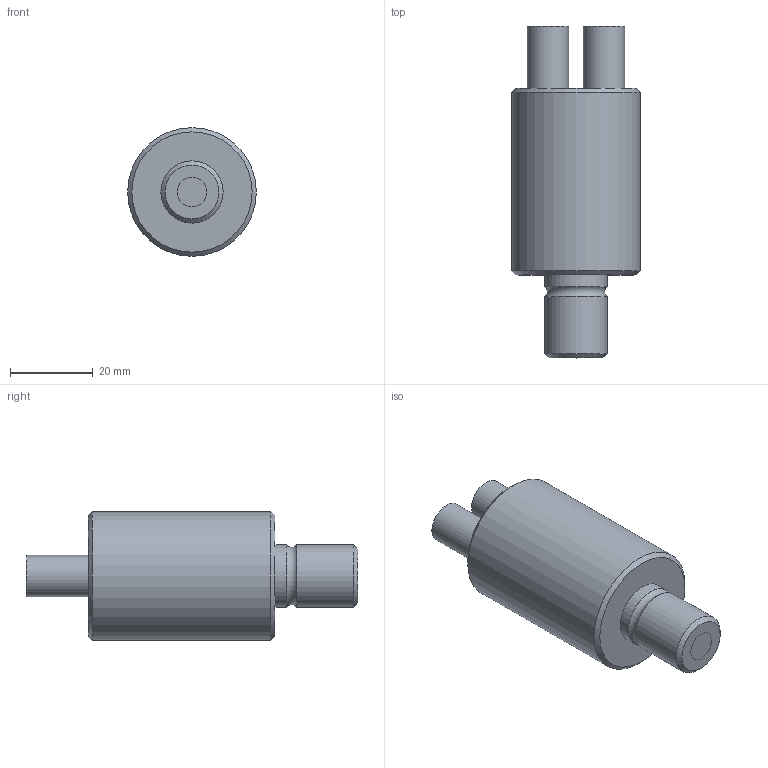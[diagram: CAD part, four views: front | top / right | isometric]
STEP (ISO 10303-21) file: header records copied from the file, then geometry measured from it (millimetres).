
FILE_DESCRIPTION(/* description */ (''),/* implementation_level */ '2;1');
FILE_NAME(/* name */ '',/* time_stamp */ '2023-07-26T16:12:38+09:00',/* author */ (''),/* organization */ (''),/* preprocessor_version */ 'ST-DEVELOPER v20',/* originating_system */ 'Autodesk Translation Framework v12.9.0.99',/* authorisation */ '');
FILE_SCHEMA (('AUTOMOTIVE_DESIGN { 1 0 10303 214 3 1 1 }'));
Length unit declared in the file: millimetre
Products named in the file (1): LGD2-5L 共通受光部
Bounding box: 31 x 80 x 31 mm (x, y, z)
Volume: 38503.6 mm3; surface area: 9283.1 mm2
Topology: 2 solids, 2 shells, 19 faces, 28 edges, 17 vertices
Faces by surface type: plane 8, cylinder 7, cone 3, torus 1
Full cylindrical faces by diameter (mm): 7.1 x2, 10 x2, 15 x2, 31 x1
Entity records: 452 total; most frequent: DIRECTION 86, CARTESIAN_POINT 65, ORIENTED_EDGE 56, AXIS2_PLACEMENT_3D 38, EDGE_CURVE 28, EDGE_LOOP 23, FACE_OUTER_BOUND 19, ADVANCED_FACE 19
